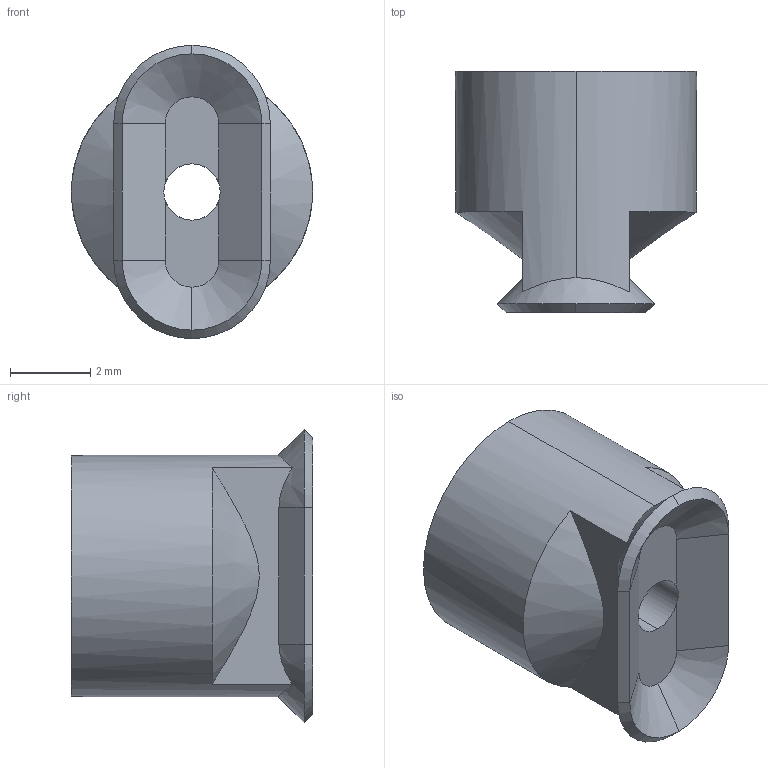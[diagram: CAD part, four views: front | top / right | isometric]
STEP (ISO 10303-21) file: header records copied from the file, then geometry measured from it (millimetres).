
FILE_DESCRIPTION (( 'STEP AP214' ), '1' );
FILE_NAME ('VS-PO357.STEP', '2019-11-25T06:58:34', ( '微软用户' ), ( '微软中国' ), 'SwSTEP 2.0', 'SolidWorks 2016', '' );
FILE_SCHEMA (( 'AUTOMOTIVE_DESIGN' ));
Length unit declared in the file: millimetre
Products named in the file (1): VS-PO357
Bounding box: 6 x 6 x 7.3 mm (x, y, z)
Volume: 120.9 mm3; surface area: 211.1 mm2
Topology: 1 solids, 1 shells, 32 faces, 78 edges, 49 vertices
Faces by surface type: plane 13, cone 11, cylinder 8
Entity records: 1379 total; most frequent: CARTESIAN_POINT 236, DIRECTION 161, ORIENTED_EDGE 156, EDGE_CURVE 78, AXIS2_PLACEMENT_3D 62, VERTEX_POINT 49, LINE 37, VECTOR 37
